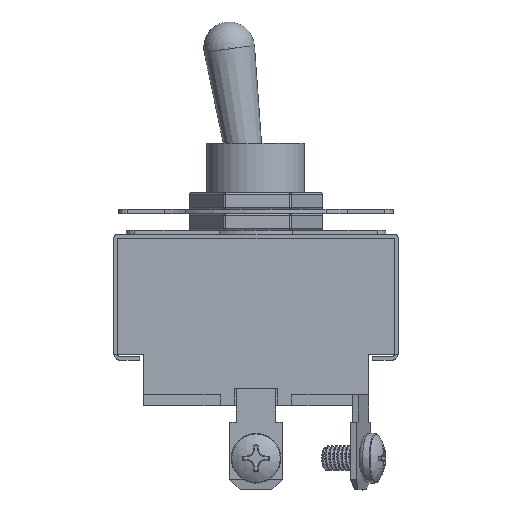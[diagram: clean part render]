
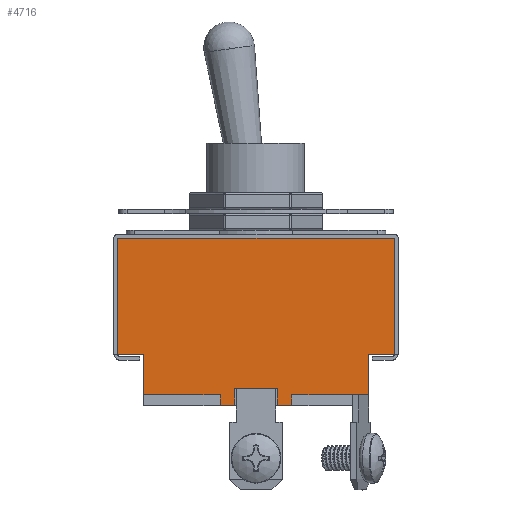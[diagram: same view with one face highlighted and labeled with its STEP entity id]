
A CAD part, top view. The second image highlights one B-rep face of the part: STEP entity #4716.
In plain terms, the highlighted planar face has unit normal (0, 0, 1).
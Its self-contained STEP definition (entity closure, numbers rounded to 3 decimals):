
#284=PLANE('',#5131);
#442=FACE_OUTER_BOUND('',#723,.T.);
#723=EDGE_LOOP('',(#3479,#3480,#3481,#3482,#3483,#3484,#3485,#3486,#3487,
#3488,#3489,#3490,#3491,#3492,#3493,#3494));
#1059=LINE('',#7127,#1513);
#1061=LINE('',#7133,#1515);
#1069=LINE('',#7147,#1523);
#1073=LINE('',#7154,#1527);
#1082=LINE('',#7171,#1536);
#1089=LINE('',#7184,#1543);
#1118=LINE('',#7252,#1572);
#1120=LINE('',#7258,#1574);
#1124=LINE('',#7266,#1578);
#1126=LINE('',#7270,#1580);
#1127=LINE('',#7272,#1581);
#1128=LINE('',#7273,#1582);
#1129=LINE('',#7274,#1583);
#1130=LINE('',#7276,#1584);
#1131=LINE('',#7277,#1585);
#1132=LINE('',#7278,#1586);
#1513=VECTOR('',#5727,10.);
#1515=VECTOR('',#5731,10.);
#1523=VECTOR('',#5743,10.);
#1527=VECTOR('',#5747,10.);
#1536=VECTOR('',#5760,1000.);
#1543=VECTOR('',#5769,1000.);
#1572=VECTOR('',#5830,1000.);
#1574=VECTOR('',#5834,1000.);
#1578=VECTOR('',#5840,1000.);
#1580=VECTOR('',#5844,1000.);
#1581=VECTOR('',#5845,1000.);
#1582=VECTOR('',#5846,1000.);
#1583=VECTOR('',#5847,1000.);
#1584=VECTOR('',#5848,1000.);
#1585=VECTOR('',#5849,1000.);
#1586=VECTOR('',#5850,1000.);
#2100=VERTEX_POINT('',#7123);
#2101=VERTEX_POINT('',#7125);
#2102=VERTEX_POINT('',#7129);
#2104=VERTEX_POINT('',#7132);
#2108=VERTEX_POINT('',#7146);
#2111=VERTEX_POINT('',#7152);
#2117=VERTEX_POINT('',#7170);
#2122=VERTEX_POINT('',#7182);
#2143=VERTEX_POINT('',#7246);
#2145=VERTEX_POINT('',#7250);
#2146=VERTEX_POINT('',#7254);
#2148=VERTEX_POINT('',#7257);
#2151=VERTEX_POINT('',#7264);
#2152=VERTEX_POINT('',#7269);
#2153=VERTEX_POINT('',#7271);
#2154=VERTEX_POINT('',#7275);
#2586=EDGE_CURVE('',#2100,#2101,#1059,.T.);
#2588=EDGE_CURVE('',#2102,#2104,#1061,.T.);
#2596=EDGE_CURVE('',#2104,#2108,#1069,.T.);
#2600=EDGE_CURVE('',#2111,#2101,#1073,.T.);
#2609=EDGE_CURVE('',#2100,#2117,#1082,.T.);
#2616=EDGE_CURVE('',#2122,#2102,#1089,.T.);
#2649=EDGE_CURVE('',#2145,#2143,#1118,.T.);
#2651=EDGE_CURVE('',#2146,#2148,#1120,.T.);
#2655=EDGE_CURVE('',#2145,#2151,#1124,.T.);
#2657=EDGE_CURVE('',#2152,#2111,#1126,.T.);
#2658=EDGE_CURVE('',#2153,#2152,#1127,.T.);
#2659=EDGE_CURVE('',#2153,#2108,#1128,.T.);
#2660=EDGE_CURVE('',#2122,#2143,#1129,.T.);
#2661=EDGE_CURVE('',#2151,#2154,#1130,.T.);
#2662=EDGE_CURVE('',#2148,#2154,#1131,.T.);
#2663=EDGE_CURVE('',#2117,#2146,#1132,.T.);
#3479=ORIENTED_EDGE('',*,*,#2657,.F.);
#3480=ORIENTED_EDGE('',*,*,#2658,.F.);
#3481=ORIENTED_EDGE('',*,*,#2659,.T.);
#3482=ORIENTED_EDGE('',*,*,#2596,.F.);
#3483=ORIENTED_EDGE('',*,*,#2588,.F.);
#3484=ORIENTED_EDGE('',*,*,#2616,.F.);
#3485=ORIENTED_EDGE('',*,*,#2660,.T.);
#3486=ORIENTED_EDGE('',*,*,#2649,.F.);
#3487=ORIENTED_EDGE('',*,*,#2655,.T.);
#3488=ORIENTED_EDGE('',*,*,#2661,.T.);
#3489=ORIENTED_EDGE('',*,*,#2662,.F.);
#3490=ORIENTED_EDGE('',*,*,#2651,.F.);
#3491=ORIENTED_EDGE('',*,*,#2663,.F.);
#3492=ORIENTED_EDGE('',*,*,#2609,.F.);
#3493=ORIENTED_EDGE('',*,*,#2586,.T.);
#3494=ORIENTED_EDGE('',*,*,#2600,.F.);
#4716=ADVANCED_FACE('',(#442),#284,.F.);
#5131=AXIS2_PLACEMENT_3D('',#7268,#5842,#5843);
#5727=DIRECTION('',(0.,-1.,0.));
#5731=DIRECTION('',(0.,-1.,0.));
#5743=DIRECTION('',(-1.,0.,0.));
#5747=DIRECTION('',(-1.,0.,0.));
#5760=DIRECTION('',(-1.,0.,0.));
#5769=DIRECTION('',(-1.,0.,0.));
#5830=DIRECTION('',(-1.,0.,0.));
#5834=DIRECTION('',(-1.,0.,0.));
#5840=DIRECTION('',(0.,1.,0.));
#5842=DIRECTION('center_axis',(0.,0.,-1.));
#5843=DIRECTION('ref_axis',(-1.,0.,0.));
#5844=DIRECTION('',(0.,-1.,0.));
#5845=DIRECTION('',(-1.,0.,0.));
#5846=DIRECTION('',(0.,-1.,0.));
#5847=DIRECTION('',(0.,1.,0.));
#5848=DIRECTION('',(-1.,0.,0.));
#5849=DIRECTION('',(0.,1.,0.));
#5850=DIRECTION('',(0.,1.,0.));
#7123=CARTESIAN_POINT('',(-4.318,-18.796,9.525));
#7125=CARTESIAN_POINT('',(-4.318,-20.066,9.525));
#7127=CARTESIAN_POINT('',(-4.318,-18.796,9.525));
#7129=CARTESIAN_POINT('',(4.318,-18.796,9.525));
#7132=CARTESIAN_POINT('',(4.318,-20.066,9.525));
#7133=CARTESIAN_POINT('',(4.318,-18.796,9.525));
#7146=CARTESIAN_POINT('',(2.54,-20.066,9.525));
#7147=CARTESIAN_POINT('',(4.318,-20.066,9.525));
#7152=CARTESIAN_POINT('',(-2.54,-20.066,9.525));
#7154=CARTESIAN_POINT('',(-2.54,-20.066,9.525));
#7170=CARTESIAN_POINT('',(-13.494,-18.796,9.525));
#7171=CARTESIAN_POINT('',(13.494,-18.796,9.525));
#7182=CARTESIAN_POINT('',(13.494,-18.796,9.525));
#7184=CARTESIAN_POINT('',(13.494,-18.796,9.525));
#7246=CARTESIAN_POINT('',(13.494,-13.97,9.525));
#7250=CARTESIAN_POINT('',(16.637,-13.97,9.525));
#7252=CARTESIAN_POINT('',(16.637,-13.97,9.525));
#7254=CARTESIAN_POINT('',(-13.494,-13.97,9.525));
#7257=CARTESIAN_POINT('',(-16.637,-13.97,9.525));
#7258=CARTESIAN_POINT('',(16.637,-13.97,9.525));
#7264=CARTESIAN_POINT('',(16.637,0.,9.525));
#7266=CARTESIAN_POINT('',(16.637,-13.97,9.525));
#7268=CARTESIAN_POINT('Origin',(16.637,-13.97,9.525));
#7269=CARTESIAN_POINT('',(-2.54,-18.034,9.525));
#7270=CARTESIAN_POINT('',(-2.54,-18.034,9.525));
#7271=CARTESIAN_POINT('',(2.54,-18.034,9.525));
#7272=CARTESIAN_POINT('',(-2.54,-18.034,9.525));
#7273=CARTESIAN_POINT('',(2.54,-18.034,9.525));
#7274=CARTESIAN_POINT('',(13.494,-18.796,9.525));
#7275=CARTESIAN_POINT('',(-16.637,0.,9.525));
#7276=CARTESIAN_POINT('',(16.637,0.,9.525));
#7277=CARTESIAN_POINT('',(-16.637,-13.97,9.525));
#7278=CARTESIAN_POINT('',(-13.494,-18.796,9.525));
